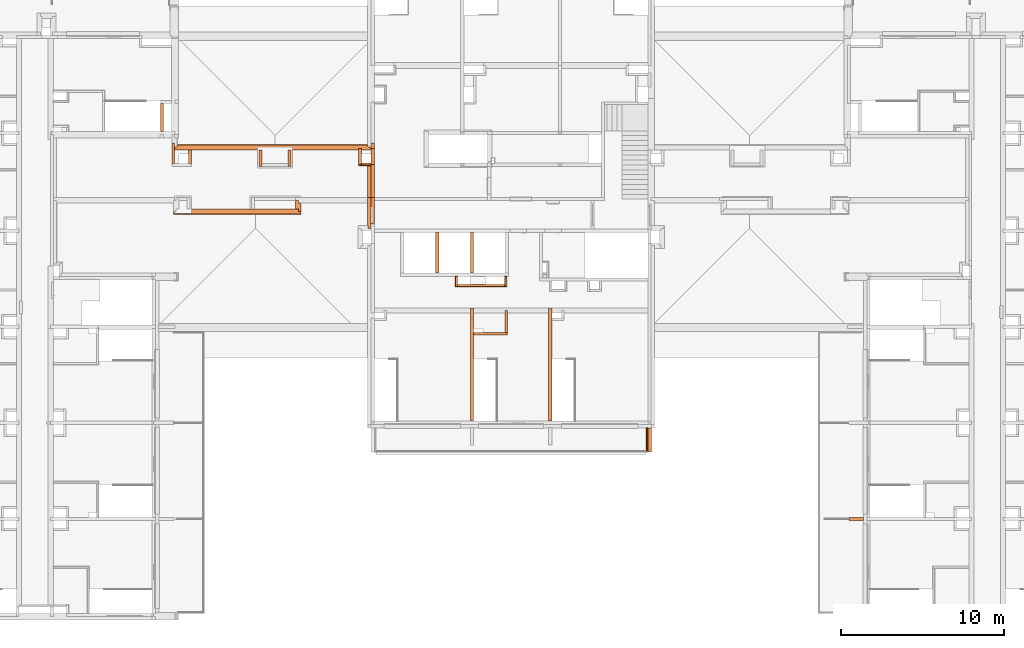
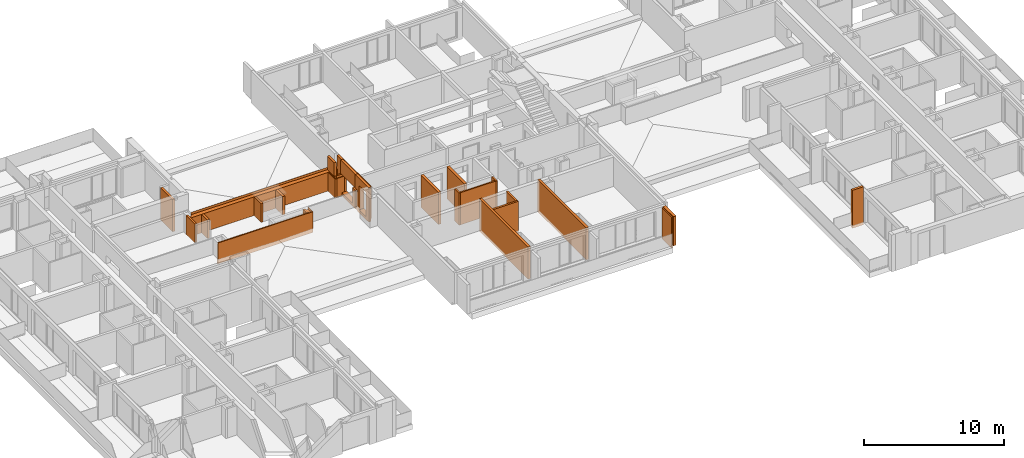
# One storey, part 19 of 30: 25 proxies, 2 openings.
"""IFC2X3 building model written with IfcOpenShell, lengths in millimetres."""

from ifc_helpers import new_model, entity, si_unit, converted_unit, derived_unit, money_unit, direction, frame, origin_with_axes, origin_2d_with_axis, place, context, subcontext, project, spatial, rectangle, extrude, faceted_brep, material, material_list, type_object, element, save


model = new_model("IFC2X3")

# Units and contexts
model_context = context("Model", 3, precision=0.01, world=origin_with_axes(), true_north=direction((0.34421633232, 0.938890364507)))
body_context = subcontext(model_context, "Body", "Model", "MODEL_VIEW")
ifc_project = project(units=[si_unit("LENGTHUNIT", "METRE", prefix="MILLI"), si_unit("AREAUNIT", "SQUARE_METRE"), si_unit("VOLUMEUNIT", "CUBIC_METRE"), converted_unit("PLANEANGLEUNIT", "DEGREE", entity("IfcPlaneAngleMeasure", 0.0174532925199), si_unit("PLANEANGLEUNIT", "RADIAN"), dimensions=[0, 0, 0, 0, 0, 0, 0]), si_unit("SOLIDANGLEUNIT", "STERADIAN"), money_unit("USD"), converted_unit("TIMEUNIT", "Year", entity("IfcTimeMeasure", 31556926.0), si_unit("TIMEUNIT", "SECOND"), dimensions=[0, 0, 1, 0, 0, 0, 0]), si_unit("MASSUNIT", "GRAM", prefix="KILO"), si_unit("THERMODYNAMICTEMPERATUREUNIT", "DEGREE_CELSIUS"), si_unit("LUMINOUSINTENSITYUNIT", "LUMEN"), si_unit("ENERGYUNIT", "JOULE", prefix="MEGA"), derived_unit("THERMALCONDUCTANCEUNIT", [(si_unit("POWERUNIT", "WATT"), 1), (si_unit("LENGTHUNIT", "METRE"), -1), (si_unit("THERMODYNAMICTEMPERATUREUNIT", "KELVIN"), -1)]), derived_unit("SPECIFICHEATCAPACITYUNIT", [(si_unit("ENERGYUNIT", "JOULE"), 1), (si_unit("MASSUNIT", "GRAM", prefix="KILO"), -1), (si_unit("THERMODYNAMICTEMPERATUREUNIT", "KELVIN"), -1)]), derived_unit("MASSDENSITYUNIT", [(si_unit("MASSUNIT", "GRAM", prefix="KILO"), 1), (si_unit("VOLUMEUNIT", "CUBIC_METRE"), -1)])], contexts=[model_context])

# Site, building, storey
site_placement = place(None, origin_with_axes())
site = spatial("IfcSite", under=ifc_project, at=site_placement, Name="USTRONIE MORSKIE", CompositionType="ELEMENT")
building_placement = place(site_placement, origin_with_axes())
building = spatial("IfcBuilding", under=site, at=building_placement, Name="Budynek", CompositionType="ELEMENT")
storey_placement = place(building_placement, frame((0.0, 0.0, 16000.0), z_axis=(0.0, 0.0, 1.0), x_axis=(1.0, 0.0, 0.0)))
storey = spatial("IfcBuildingStorey", under=building, at=storey_placement, Name="ANTRESOLA - KOND. TECHNICZNA", CompositionType="ELEMENT", Elevation=16000.0)

# Proxies
ifc_material_1 = material(Name="Bloczki silikatowe")
building_element_proxy_type_1 = type_object("IfcBuildingElementProxyType", Name="Bloczki silikatowe 120", PredefinedType="NOTDEFINED")
proxy_1_placement = place(storey_placement, frame((384517.920018, 729491.199036, -160.0), z_axis=(0.0, 0.0, 1.0), x_axis=(1.0, 0.0, 0.0)))
element("IfcBuildingElementProxy", 1, at=proxy_1_placement, inside=storey, type_object=building_element_proxy_type_1, material=ifc_material_1, Name="SW-04", context=body_context, shape_type="Brep", body=[
    faceted_brep([(2920.00090117, -120.0, 2800.0), (2920.00090117, 0.0, 2800.0), (0.0, 0.0, 2800.0), (0.0, -120.0, 2800.0), (2920.00090117, -120.0, 0.0), (2920.00090117, 0.0, 0.0), (0.0, 0.0, 0.0), (0.0, -120.0, 0.0)], [[[0, 1, 2, 3]], [[1, 0, 4, 5]], [[1, 5, 6, 2]], [[7, 3, 2, 6]], [[4, 0, 3, 7]], [[5, 4, 7, 6]]]),
])
proxy_2_placement = place(storey_placement, frame((384517.920018, 730091.199036, -160.0), z_axis=(0.0, 0.0, 1.0), x_axis=(0.0, -1.0, 0.0)))
element("IfcBuildingElementProxy", 2, at=proxy_2_placement, inside=storey, type_object=building_element_proxy_type_1, material=ifc_material_1, Name="SW-04", context=body_context, shape_type="Brep", body=[
    faceted_brep([(720.0, -120.0, 2800.0), (720.0, 0.0, 2800.0), (100.0, 0.0, 2800.0), (100.0, -120.0, 2800.0), (720.0, -120.0, 0.0), (720.0, 0.0, 0.0), (100.0, 0.0, 0.0), (100.0, -120.0, 0.0)], [[[0, 1, 2, 3]], [[1, 0, 4, 5]], [[1, 5, 6, 2]], [[7, 3, 2, 6]], [[4, 0, 3, 7]], [[5, 4, 7, 6]]]),
])
proxy_3_placement = place(storey_placement, frame((387437.920919, 729491.199036, -160.0), z_axis=(0.0, 0.0, 1.0), x_axis=(0.0, 1.0, 0.0)))
element("IfcBuildingElementProxy", 3, at=proxy_3_placement, inside=storey, type_object=building_element_proxy_type_1, material=ifc_material_1, Name="SW-04", context=body_context, shape_type="Brep", body=[
    faceted_brep([(500.0, -120.0, 2800.0), (500.0, 0.0, 2800.0), (-120.0, 0.0, 2800.0), (-120.0, -120.0, 2800.0), (500.0, -120.0, 0.0), (500.0, 0.0, 0.0), (-120.0, 0.0, 0.0), (-120.0, -120.0, 0.0)], [[[0, 1, 2, 3]], [[1, 0, 4, 5]], [[1, 5, 6, 2]], [[7, 3, 2, 6]], [[4, 0, 3, 7]], [[5, 4, 7, 6]]]),
])

# Proxy, opening
ifc_material_2 = material(Name="Tynk zewnętrzny")
ifc_material_3 = material(Name="Wełna ELEW")
ifc_material_4 = material(Name="Beton konstrukcyjny B25")
ifc_material_list_1 = material_list([ifc_material_2, ifc_material_3, ifc_material_4])
building_element_proxy_type_2 = type_object("IfcBuildingElementProxyType", Name="20+20 410", PredefinedType="NOTDEFINED")
proxy_4_placement = place(storey_placement, frame((379317.920919, 732811.199494, -160.0), z_axis=(0.0, 0.0, 1.0), x_axis=(0.0, 1.0, 0.0)))
proxy_4 = element("IfcBuildingElementProxy", 4, at=proxy_4_placement, inside=storey, type_object=building_element_proxy_type_2, material=ifc_material_list_1, Name="Œciana-008", context=body_context, shape_type="Brep", body=[
    faceted_brep([(2040.00427375, 310.0, 1620.00000171), (2040.00427375, 300.0, 1620.00000171), (2040.00427375, 300.0, 5.0), (2040.00427375, 310.0, 5.0), (2020.00427375, 300.0, 1620.00000171), (2020.00427375, 310.0, 1620.00000171), (2020.00427375, 300.0, 5.0), (2020.00427375, 310.0, 5.0)], [[[0, 1, 2, 3]], [[4, 1, 0, 5]], [[1, 4, 6, 2]], [[3, 2, 6, 7]], [[5, 0, 3, 7]], [[4, 5, 7, 6]]]),
    faceted_brep([(1690.00427375, 300.0, 1820.00000171), (1690.00427375, 300.0, 1825.00000171), (2040.00427375, 300.0, 1825.00000171), (2040.00427375, 300.0, 3000.0), (300.0, 300.0, 3000.0), (300.0, 300.0, 5.0), (1690.00427365, 300.0, 5.0), (1690.00427375, 310.0, 1820.00000171), (1690.00427375, 310.0, 1825.00000171), (2040.00427375, 310.0, 1825.00000171), (2040.00427375, 310.0, 3000.0), (300.0, 310.0, 3000.0), (300.0, 310.0, 5.0), (1690.00427365, 310.0, 5.0)], [[[0, 1, 2, 3, 4, 5, 6]], [[1, 0, 7, 8]], [[9, 2, 1, 8]], [[2, 9, 10, 3]], [[11, 4, 3, 10]], [[12, 5, 4, 11]], [[13, 6, 5, 12]], [[7, 0, 6, 13]], [[8, 7, 13, 12, 11, 10, 9]]]),
    faceted_brep([(1690.00427375, 99.9999294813, 1825.00000171), (2040.00427375, 99.9999294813, 1825.00000171), (2040.00427375, 100.0, 3000.0), (120.0, 100.0, 3000.0), (120.0, 100.0, 5.0), (1840.0042738, 100.0, 5.0), (1840.00427375, 99.9999294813, 1620.00000171), (1690.00427375, 99.9999294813, 1620.00000171), (2040.00427375, 300.0, 1825.00000171), (1690.00427375, 300.0, 1825.00000171), (2040.00427375, 300.0, 3000.0), (120.0, 300.0, 3000.0), (120.0, 300.0, 5.0), (1840.00427385, 300.0, 5.0), (1840.00427376, 300.0, 1620.00000171), (1690.00427375, 300.0, 1620.00000171)], [[[0, 1, 2, 3, 4, 5, 6, 7]], [[8, 1, 0, 9]], [[1, 8, 10, 2]], [[11, 3, 2, 10]], [[12, 4, 3, 11]], [[13, 5, 4, 12]], [[14, 6, 5, 13]], [[7, 6, 14, 15]], [[9, 0, 7, 15]], [[9, 15, 14, 13, 12, 11, 10, 8]]]),
    faceted_brep([(2040.00427375, 300.0, 1620.00000171), (2040.00427375, 99.9999294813, 1620.00000171), (2040.00427375, 100.0, 5.0), (2040.00427375, 300.0, 5.0), (2020.00427375, 99.9999294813, 1620.00000171), (2020.00427375, 300.0, 1620.00000171), (2020.00427375, 100.0, 5.0), (2020.00427375, 300.0, 5.0)], [[[0, 1, 2, 3]], [[4, 1, 0, 5]], [[1, 4, 6, 2]], [[3, 2, 6, 7]], [[5, 0, 3, 7]], [[4, 5, 7, 6]]]),
    faceted_brep([(2040.00427375, 100.0, 2800.0), (2040.00427375, -100.0, 2800.0), (2040.00427375, -100.0, 0.0), (2040.00427375, 100.0, 0.0), (410.0, -100.0, 2800.0), (410.0, 100.0, 2800.0), (410.0, -100.0, 0.0), (410.0, 100.0, 0.0)], [[[0, 1, 2, 3]], [[4, 1, 0, 5]], [[1, 4, 6, 2]], [[2, 6, 7, 3]], [[5, 0, 3, 7]], [[4, 5, 7, 6]]]),
])
opening_1_placement = place(proxy_4_placement, frame((979.999542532, 0.0, 250.0), z_axis=(0.0, 0.0, 1.0), x_axis=(1.0, 0.0, 0.0)))
element("IfcOpeningElement", 5, at=opening_1_placement, cuts=proxy_4, Name="D8", context=body_context, shape_type="SweptSolid", body=[
    extrude(rectangle(XDim=1020.0, YDim=2120.0, at=origin_2d_with_axis()), frame((0.0, 100.0, 1060.0), z_axis=(0.0, -1.0, 0.0), x_axis=(-1.0, 0.0, 0.0)), (0.0, 0.0, -1.0), 620.0),
    extrude(rectangle(XDim=1020.0, YDim=2120.0, at=origin_2d_with_axis()), frame((0.0, 100.0, 1060.0), z_axis=(0.0, 1.0, 0.0), x_axis=(-1.0, 0.0, 0.0)), (0.0, 0.0, -1.0), 610.0),
])

ifc_material_list_2 = material_list([ifc_material_4, ifc_material_3, ifc_material_2])
proxy_5_placement = place(storey_placement, frame((379317.920919, 736951.199036, -160.0), z_axis=(0.0, 0.0, 1.0), x_axis=(0.0, -1.0, 0.0)))
proxy_5 = element("IfcBuildingElementProxy", 6, at=proxy_5_placement, inside=storey, type_object=building_element_proxy_type_2, material=ifc_material_list_2, Name="Œciana-006", context=body_context, shape_type="Brep", body=[
    faceted_brep([(0.0, -100.0, 2800.0), (0.0, 100.0, 2800.0), (0.0, 100.0, 0.0), (0.0, -100.0, 0.0), (2099.99526878, 100.0, 2800.0), (2099.99526878, -100.0, 2800.0), (2099.99526878, 100.0, 0.0), (2099.99526878, -100.0, 0.0)], [[[0, 1, 2, 3]], [[4, 1, 0, 5]], [[1, 4, 6, 2]], [[3, 2, 6, 7]], [[5, 0, 3, 7]], [[4, 5, 7, 6]]]),
    faceted_brep([(180.0, -300.0, 1620.00000171), (180.0, -99.9999294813, 1620.00000171), (180.0, -100.0, 5.0), (180.0, -300.0, 5.0), (2099.99526878, -99.9999294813, 1620.00000171), (2099.99526878, -300.0, 1620.00000171), (2099.99526878, -100.0, 5.0), (2099.99526878, -300.0, 5.0)], [[[0, 1, 2, 3]], [[4, 1, 0, 5]], [[1, 4, 6, 2]], [[3, 2, 6, 7]], [[5, 0, 3, 7]], [[4, 5, 7, 6]]]),
    faceted_brep([(120.000112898, -99.9999294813, 1825.00000171), (120.000112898, -99.9999294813, 1820.00000171), (0.0, -100.0, 1820.00000171), (0.0, -100.0, 3000.00000122), (2099.99526878, -100.0, 3000.00000122), (2099.99526878, -99.9999294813, 1825.00000171), (120.000112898, -300.0, 1825.00000171), (120.000112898, -300.0, 1820.00000171), (0.0, -300.0, 1820.00000171), (0.0, -300.0, 3000.00000122), (2099.99526878, -300.0, 3000.00000122), (2099.99526878, -300.0, 1825.00000171)], [[[0, 1, 2, 3, 4, 5]], [[1, 0, 6, 7]], [[1, 7, 8, 2]], [[3, 2, 8, 9]], [[3, 9, 10, 4]], [[11, 5, 4, 10]], [[0, 5, 11, 6]], [[6, 11, 10, 9, 8, 7]]]),
    faceted_brep([(180.0, -310.0, 1620.00000171), (180.0, -300.0, 1620.00000171), (180.0, -300.0, 5.0), (180.0, -310.0, 5.0), (2099.99526878, -300.0, 1620.00000171), (2099.99526878, -310.0, 1620.00000171), (2099.99526878, -300.0, 5.0), (2099.99526878, -310.0, 5.0)], [[[0, 1, 2, 3]], [[4, 1, 0, 5]], [[1, 4, 6, 2]], [[3, 2, 6, 7]], [[5, 0, 3, 7]], [[4, 5, 7, 6]]]),
    faceted_brep([(120.000112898, -300.0, 1825.00000171), (120.000112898, -300.0, 1820.00000171), (0.0, -300.0, 1820.00000171), (0.0, -300.0, 3000.00000122), (2099.99526878, -300.0, 3000.00000122), (2099.99526878, -300.0, 1825.00000171), (120.000112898, -310.0, 1825.00000171), (120.000112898, -310.0, 1820.00000171), (0.0, -310.0, 1820.00000171), (0.0, -310.0, 3000.00000122), (2099.99526878, -310.0, 3000.00000122), (2099.99526878, -310.0, 1825.00000171)], [[[0, 1, 2, 3, 4, 5]], [[1, 0, 6, 7]], [[1, 7, 8, 2]], [[3, 2, 8, 9]], [[3, 9, 10, 4]], [[11, 5, 4, 10]], [[0, 5, 11, 6]], [[6, 11, 10, 9, 8, 7]]]),
])
opening_2_placement = place(proxy_5_placement, frame((930.0, 0.0, 250.0), z_axis=(0.0, 0.0, 1.0), x_axis=(1.0, 0.0, 0.0)))
element("IfcOpeningElement", 7, at=opening_2_placement, cuts=proxy_5, context=body_context, shape_type="SweptSolid", body=[
    extrude(rectangle(XDim=1500.0, YDim=1370.00000171, at=origin_2d_with_axis()), frame((0.0, -100.0, 685.000000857), z_axis=(0.0, 1.0, 0.0), x_axis=(1.0, 0.0, 0.0)), (0.0, 0.0, -1.0), 620.0),
    extrude(rectangle(XDim=1500.0, YDim=1370.00000171, at=origin_2d_with_axis()), frame((0.0, -100.0, 685.000000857), z_axis=(0.0, -1.0, 0.0), x_axis=(1.0, 0.0, 0.0)), (0.0, 0.0, -1.0), 620.0),
])

# Proxies
building_element_proxy_type_3 = type_object("IfcBuildingElementProxyType", Name="Bloczki silikatowe 180", PredefinedType="NOTDEFINED")
proxy_6_placement = place(storey_placement, frame((378617.937739, 737841.199937, -159.999998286), z_axis=(0.0, 0.0, 1.0), x_axis=(0.0, -1.0, 0.0)))
element("IfcBuildingElementProxy", 8, at=proxy_6_placement, inside=storey, type_object=building_element_proxy_type_3, material=ifc_material_1, Name="Œciana-006", context=body_context, shape_type="Brep", body=[
    faceted_brep([(90.0, 0.0, 1620.0), (219.997747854, 0.0, 1620.0), (219.997747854, 0.0, 1820.0), (90.0, 0.0, 1820.0), (0.0, 0.0, 1819.99998851), (0.0, 0.0, 2999.99999829), (980.00090117, 0.0, 2999.99999829), (980.00090117, 0.0, 1820.0), (1010.00101407, 0.0, 1820.0), (1010.00101407, 0.0, 1620.0), (1070.00090117, 0.0, 1620.0), (1070.00090117, 0.0, 0.0), (90.0, 0.0, -1.71372960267e-06), (1010.00101407, -120.000077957, 1620.0), (219.997747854, -120.000077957, 1620.0), (90.0, -180.0, 1620.0), (1010.00101407, -180.0, 1620.0), (1070.00090117, -180.0, 1620.0), (219.997747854, -120.000077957, 1820.0), (980.00090117, -180.0, 1820.0), (90.0, -180.0, 1820.0), (980.00090117, -120.000077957, 1820.0), (0.0, -180.0, 1819.99998851), (0.0, -180.0, 2999.99999829), (980.00090117, -180.0, 2999.99999829), (1010.00101407, -120.000077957, 1820.0), (1070.00090117, -180.0, 0.0), (90.0, -180.0, -1.71372960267e-06)], [[[0, 1, 2, 3, 4, 5, 6, 7, 8, 9, 10, 11, 12]], [[13, 14, 1, 0, 15, 16, 17, 10, 9]], [[18, 2, 1, 14]], [[19, 20, 3, 2, 18, 21]], [[4, 3, 20, 22]], [[23, 5, 4, 22]], [[6, 5, 23, 24]], [[24, 19, 21, 7, 6]], [[7, 21, 25, 8]], [[13, 9, 8, 25]], [[11, 10, 17, 26]], [[11, 26, 27, 12]], [[27, 15, 0, 12]], [[21, 18, 14, 13, 25]], [[16, 15, 27, 26, 17]], [[22, 20, 19, 24, 23]]]),
])
proxy_7_placement = place(storey_placement, frame((366377.920919, 738801.199036, -160.0), z_axis=(0.0, 0.0, 1.0), x_axis=(0.0, 1.0, 0.0)))
element("IfcBuildingElementProxy", 9, at=proxy_7_placement, inside=storey, type_object=building_element_proxy_type_3, material=ifc_material_1, Name="SW-02", context=body_context, shape_type="Brep", body=[
    faceted_brep([(1819.98043997, -90.0, 2800.0), (1819.98043997, 90.0, 2800.0), (100.0, 90.0, 2800.0), (100.0, -90.0, 2800.0), (1819.98043997, -90.0, 0.0), (1819.98043997, 90.0, 0.0), (100.0, 90.0, 0.0), (100.0, -90.0, 0.0)], [[[0, 1, 2, 3]], [[1, 0, 4, 5]], [[1, 5, 6, 2]], [[7, 3, 2, 6]], [[4, 0, 3, 7]], [[5, 4, 7, 6]]]),
])
proxy_8_placement = place(storey_placement, frame((368107.904099, 737841.199937, -160.0), z_axis=(0.0, 0.0, 1.0), x_axis=(0.0, -1.0, 0.0)))
element("IfcBuildingElementProxy", 10, at=proxy_8_placement, inside=storey, type_object=building_element_proxy_type_3, material=ifc_material_1, Name="SW-02", context=body_context, shape_type="Brep", body=[
    faceted_brep([(90.0, -90.0, 0.0), (90.0, -90.0, 1620.00000171), (90.0, 90.0, 1620.00000171), (90.0, 90.0, 0.0), (910.00090117, -90.0, 1620.00000171), (910.00090117, -90.0, 0.0), (910.00090117, 90.0, 1620.00000171), (910.00090117, 90.0, 0.0)], [[[0, 1, 2, 3]], [[4, 1, 0, 5]], [[6, 2, 1, 4]], [[3, 2, 6, 7]], [[3, 7, 5, 0]], [[7, 6, 4, 5]]]),
])
proxy_9_placement = place(storey_placement, frame((378617.937739, 736861.199036, -359.999998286), z_axis=(0.0, 0.0, 1.0), x_axis=(1.0, 0.0, 0.0)))
element("IfcBuildingElementProxy", 11, at=proxy_9_placement, inside=storey, type_object=building_element_proxy_type_3, material=ifc_material_1, Name="SW-02", context=body_context, shape_type="Brep", body=[
    faceted_brep([(0.0, 90.0, 2019.99999843), (0.0, -30.0001128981, 2020.0), (599.983250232, -30.0001128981, 2020.0), (599.983179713, 89.9999999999, 2020.0), (0.0, -90.0, 1820.0), (0.0, -30.0001128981, 1820.0), (0.0, 90.0, 199.999999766), (0.0, 90.0, 0.0), (0.00015960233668, 69.9984160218, -1.71373137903e-06), (0.00015960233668, 69.9984160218, 199.999998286), (0.0, -90.0, 199.999998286), (599.983250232, -30.0001128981, 1820.0), (599.983250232, -90.0, 1820.0), (599.983179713, -90.0000000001, 199.999998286), (599.983179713, 69.9984160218, 199.999998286), (599.983179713, 69.9984160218, -1.71373137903e-06), (599.983179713, 90.0, 0.0), (599.983179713, 89.9999999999, 199.999998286)], [[[0, 1, 2, 3]], [[4, 5, 1, 0, 6, 7, 8, 9, 10]], [[5, 11, 2, 1]], [[2, 11, 12, 13, 14, 15, 16, 17, 3]], [[6, 0, 3, 17, 16, 7]], [[4, 12, 11, 5]], [[16, 15, 8, 7]], [[8, 15, 14, 9]], [[9, 14, 13, 10]], [[13, 12, 4, 10]]]),
])
proxy_10_placement = place(storey_placement, frame((372427.920919, 736841.199036, -359.999998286), z_axis=(0.0, 0.0, 1.0), x_axis=(0.0, 1.0, 0.0)))
element("IfcBuildingElementProxy", 12, at=proxy_10_placement, inside=storey, type_object=building_element_proxy_type_3, material=ifc_material_1, Name="SW-02", context=body_context, shape_type="Brep", body=[
    faceted_brep([(910.000916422, 90.0, 199.999998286), (910.000902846, 90.0, 1820.0), (910.000902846, -90.0, 1820.0), (910.000916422, -90.0, 199.999998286), (-90.0, 90.0, 199.999998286), (-90.0, 90.0, 1820.0), (90.0, 90.0, 199.999998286), (-70.0000000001, 90.0, 199.999998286), (-90.0, -90.0, 1820.0), (-90.0, -90.0, 199.999998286), (-70.0000000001, -90.0, 199.999998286), (90.0, -90.0, 199.999998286)], [[[0, 1, 2, 3]], [[4, 5, 1, 0, 6, 7]], [[5, 8, 2, 1]], [[3, 2, 8, 9, 10, 11]], [[0, 3, 11, 6]], [[9, 8, 5, 4]], [[11, 10, 7, 6]], [[4, 7, 10, 9]]]),
])
proxy_11_placement = place(storey_placement, frame((367067.920919, 737841.199937, -360.0), z_axis=(0.0, 0.0, 1.0), x_axis=(0.0, -1.0, 0.0)))
element("IfcBuildingElementProxy", 13, at=proxy_11_placement, inside=storey, type_object=building_element_proxy_type_3, material=ifc_material_1, Name="SW-02", context=body_context, shape_type="Brep", body=[
    faceted_brep([(-350.0, -90.0, 200.0), (-350.0, -90.0, 1820.00000171), (-350.0, 90.0, 1820.00000171), (-350.0, 90.0, 200.0), (910.00090117, -90.0, 200.0), (910.00090117, -90.0, 1820.00000171), (0.0, -90.0, 200.0), (910.00090117, 90.0, 1820.00000171), (910.00090117, 90.0, 200.0), (0.0, 90.0, 200.0)], [[[0, 1, 2, 3]], [[4, 5, 1, 0, 6]], [[5, 7, 2, 1]], [[3, 2, 7, 8, 9]], [[3, 9, 6, 0]], [[8, 7, 5, 4]], [[4, 6, 9, 8]]]),
])
proxy_12_placement = place(storey_placement, frame((374207.920919, 737841.199937, -359.999998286), z_axis=(0.0, 0.0, 1.0), x_axis=(0.0, -1.0, 0.0)))
element("IfcBuildingElementProxy", 14, at=proxy_12_placement, inside=storey, type_object=building_element_proxy_type_3, material=ifc_material_1, Name="SW-02", context=body_context, shape_type="Brep", body=[
    faceted_brep([(89.9999847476, -90.0, 199.999998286), (89.9999983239, -90.0, 1820.0), (89.9999983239, 90.0, 1820.0), (89.9999847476, 90.0, 199.999998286), (1090.00090117, -90.0, 199.999998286), (1090.00090117, -90.0, 1820.0), (910.00090117, -90.0, 199.999998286), (1070.00090117, -90.0, 199.999998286), (1090.00090117, 90.0, 1820.0), (1090.00090117, 90.0, 199.999998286), (1070.00090117, 90.0, 199.999998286), (910.00090117, 90.0, 199.999998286)], [[[0, 1, 2, 3]], [[4, 5, 1, 0, 6, 7]], [[5, 8, 2, 1]], [[3, 2, 8, 9, 10, 11]], [[0, 3, 11, 6]], [[9, 8, 5, 4]], [[11, 10, 7, 6]], [[4, 7, 10, 9]]]),
])
building_element_proxy_type_4 = type_object("IfcBuildingElementProxyType", Name="Bloczki silikatowe 150", PredefinedType="NOTDEFINED")
proxy_13_placement = place(storey_placement, frame((387512.920919, 727826.199036, -160.0), z_axis=(0.0, 0.0, 1.0), x_axis=(0.0, -1.0, 0.0)))
element("IfcBuildingElementProxy", 15, at=proxy_13_placement, inside=storey, type_object=building_element_proxy_type_4, material=ifc_material_1, Name="SW-03", context=body_context, shape_type="Brep", body=[
    faceted_brep([(1290.0, 75.0, 0.0), (1290.0, -75.0, 0.0), (-75.0, -75.0, 0.0), (-75.0, 75.0, 0.0), (1290.0, 75.0, 2800.0), (1290.0, -75.0, 2800.0), (-75.0, -75.0, 2800.0), (-75.0, 75.0, 2800.0)], [[[0, 1, 2, 3]], [[1, 0, 4, 5]], [[1, 5, 6, 2]], [[7, 3, 2, 6]], [[4, 0, 3, 7]], [[5, 4, 7, 6]]]),
])
proxy_14_placement = place(storey_placement, frame((385417.917953, 726461.199036, -160.0), z_axis=(0.0, 0.0, 1.0), x_axis=(1.0, 0.0, 0.0)))
element("IfcBuildingElementProxy", 16, at=proxy_14_placement, inside=storey, type_object=building_element_proxy_type_4, material=ifc_material_1, Name="SW-03", context=body_context, shape_type="Brep", body=[
    faceted_brep([(2170.00296568, -75.0, 2800.0), (2170.00296568, 75.0, 2800.0), (100.001739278, 75.0, 2800.0), (100.00245405, -75.0, 2800.0), (2170.00296568, -75.0, 0.0), (2170.00296568, 75.0, 0.0), (100.001739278, 75.0, 0.0), (100.00245405, -75.0, 0.0)], [[[0, 1, 2, 3]], [[1, 0, 4, 5]], [[1, 5, 6, 2]], [[7, 3, 2, 6]], [[4, 0, 3, 7]], [[5, 4, 7, 6]]]),
])
building_element_proxy_type_5 = type_object("IfcBuildingElementProxyType", Name="Beton konstrukcyjny B25 200", PredefinedType="NOTDEFINED")
for number, where, z_axis, x_axis, name in (
    (17, (385417.920919, 730091.199036, -160.0), (0.0, 0.0, 1.0), (0.0, 1.0, 0.0), "SW-01"),
    (18, (383277.920919, 730091.199036, -160.0), (0.0, 0.0, 1.0), (0.0, 1.0, 0.0), "SW-01"),
):
    element("IfcBuildingElementProxy", number, at=place(storey_placement, frame(where, z_axis=z_axis, x_axis=x_axis)), inside=storey, type_object=building_element_proxy_type_5, material=ifc_material_4, Name=name, context=body_context, shape_type="Brep", body=[
        faceted_brep([(2610.0, 100.0, 0.0), (2610.0, -100.0, 0.0), (100.0, -100.0, 0.0), (100.0, 100.0, 0.0), (2610.0, 100.0, 2800.0), (2610.0, -100.0, 2800.0), (100.0, -100.0, 2800.0), (100.0, 100.0, 2800.0)], [[[0, 1, 2, 3]], [[1, 0, 4, 5]], [[1, 5, 6, 2]], [[7, 3, 2, 6]], [[4, 0, 3, 7]], [[5, 4, 7, 6]]]),
    ])
proxy_15_placement = place(storey_placement, frame((390217.906071, 721001.199036, -160.0), z_axis=(0.0, 0.0, 1.0), x_axis=(4.76514275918e-06, 0.999999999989, 0.0)))
element("IfcBuildingElementProxy", 19, at=proxy_15_placement, inside=storey, type_object=building_element_proxy_type_5, material=ifc_material_4, Name="SW-01", context=body_context, shape_type="Brep", body=[
    faceted_brep([(99.9995234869, 100.0, 2800.0), (99.9995234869, 100.0, 0.0), (100.000476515, -100.0, 0.0), (100.000476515, -100.0, 2800.0), (7049.99952357, 100.0, 0.0), (7049.99952357, 100.0, 2800.0), (7050.00047659, -100.0, 0.0), (7050.00047659, -100.0, 2800.0)], [[[0, 1, 2, 3]], [[4, 1, 0, 5]], [[6, 2, 1, 4]], [[3, 2, 6, 7]], [[5, 0, 3, 7]], [[5, 7, 6, 4]]]),
])
proxy_16_placement = place(storey_placement, frame((379317.920919, 737841.199937, -159.999998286), z_axis=(0.0, 0.0, 1.0), x_axis=(0.0, -1.0, 0.0)))
element("IfcBuildingElementProxy", 20, at=proxy_16_placement, inside=storey, type_object=building_element_proxy_type_5, material=ifc_material_4, Name="SW-01", context=body_context, shape_type="Brep", body=[
    faceted_brep([(0.0, -100.0, 1819.99998851), (0.0, -100.0, 2799.99999829), (0.0, 100.0, 2799.99999829), (0.0, 100.0, 1819.99998851), (980.00090117, -100.0, 1820.0), (980.00090117, -100.0, 2799.99999829), (-350.0, -100.0, 1819.99998851), (-350.0, -100.0, 0.0), (890.00090117, -100.0, -1.7137367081e-06), (890.00090117, -100.0, 1820.0), (980.00090117, 100.0, 2799.99999829), (980.00090117, 100.0, 1820.0), (890.00090117, 100.0, 1820.0), (890.00090117, 100.0, -1.7137367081e-06), (-350.0, 100.0, 0.0), (-350.0, 100.0, 1819.99998851)], [[[0, 1, 2, 3]], [[4, 5, 1, 0, 6, 7, 8, 9]], [[5, 10, 2, 1]], [[3, 2, 10, 11, 12, 13, 14, 15]], [[15, 6, 0, 3]], [[11, 10, 5, 4]], [[15, 14, 7, 6]], [[7, 14, 13, 8]], [[9, 8, 13, 12]], [[4, 9, 12, 11]]]),
])
proxy_17_placement = place(storey_placement, frame((409457.920919, 715101.199036, -180.0), z_axis=(0.0, 0.0, 1.0), x_axis=(-1.0, 0.0, 0.0)))
element("IfcBuildingElementProxy", 21, at=proxy_17_placement, inside=storey, type_object=building_element_proxy_type_5, material=ifc_material_4, Name="SW-01", context=body_context, shape_type="Brep", body=[
    faceted_brep([(0.0, -100.0, 3330.0), (0.0, 100.0, 3330.0), (0.0, 100.000032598, 20.0), (0.0, -99.9999674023, 20.0), (890.036391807, 100.0, 3330.0), (890.036391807, -100.0, 3330.0), (890.036391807, 100.000032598, 20.0), (890.036391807, -99.9999674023, 20.0)], [[[0, 1, 2, 3]], [[4, 1, 0, 5]], [[1, 4, 6, 2]], [[2, 6, 7, 3]], [[5, 0, 3, 7]], [[4, 5, 7, 6]]]),
])
proxy_18_placement = place(storey_placement, frame((385417.946068, 721001.198989, -160.0), z_axis=(0.0, 0.0, 1.0), x_axis=(-4.76514275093e-06, 0.999999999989, 0.0)))
element("IfcBuildingElementProxy", 22, at=proxy_18_placement, inside=storey, type_object=building_element_proxy_type_5, material=ifc_material_4, Name="SW-01", context=body_context, shape_type="Brep", body=[
    faceted_brep([(100.000524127, 100.0, 2800.0), (100.000524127, 100.0, 0.0), (99.9995710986, -100.0, 0.0), (99.9995710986, -100.0, 2800.0), (7050.00052421, 100.0, 0.0), (7050.00052421, 100.0, 2800.0), (7049.99957118, -100.0, 0.0), (7049.99957118, -100.0, 2800.0)], [[[0, 1, 2, 3]], [[4, 1, 0, 5]], [[6, 2, 1, 4]], [[3, 2, 6, 7]], [[5, 0, 3, 7]], [[5, 7, 6, 4]]]),
])
ifc_material_5 = material(Name="Laminat")
building_element_proxy_type_6 = type_object("IfcBuildingElementProxyType", Name="Laminat 80", PredefinedType="NOTDEFINED")
proxy_19_placement = place(storey_placement, frame((396167.920919, 720691.199036, -160.0), z_axis=(0.0, 0.0, 1.0), x_axis=(0.0, -1.0, 0.0)))
element("IfcBuildingElementProxy", 23, at=proxy_19_placement, inside=storey, type_object=building_element_proxy_type_6, material=ifc_material_5, Name="Œciana-008", context=body_context, shape_type="Brep", body=[
    faceted_brep([(0.0, 40.0, 2700.0), (0.0, -40.0, 2700.0), (1390.0, -40.0, 2700.0), (1390.0, 40.0, 2700.0), (0.0, 40.0, 0.0), (0.0, -40.0, 0.0), (1390.0, -40.0, 0.0), (1390.0, 40.0, 0.0)], [[[0, 1, 2, 3]], [[4, 5, 1, 0]], [[1, 5, 6, 2]], [[7, 3, 2, 6]], [[4, 0, 3, 7]], [[5, 4, 7, 6]]]),
])
ifc_material_list_3 = material_list([ifc_material_2, ifc_material_1, ifc_material_2])
building_element_proxy_type_7 = type_object("IfcBuildingElementProxyType", Name="BALKON bok 04 220", PredefinedType="NOTDEFINED")
proxy_20_placement = place(storey_placement, frame((396317.920919, 720691.199036, 79.9999979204), z_axis=(0.0, 0.0, 1.0), x_axis=(0.0, -1.0, 0.0)))
element("IfcBuildingElementProxy", 24, at=proxy_20_placement, inside=storey, type_object=building_element_proxy_type_7, material=ifc_material_list_3, Name="Œciana-008", context=body_context, shape_type="Brep", body=[
    faceted_brep([(0.0, 100.0, 2540.00000208), (1490.0, 100.0, 2540.00000208), (1490.0, 110.0, 2540.00000208), (0.0, 110.0, 2540.00000208), (0.0, 100.0, 0.0), (1490.0, 100.0, 0.0), (1490.0, 110.0, 0.0), (0.0, 110.0, 0.0)], [[[0, 1, 2, 3]], [[4, 5, 1, 0]], [[2, 1, 5, 6]], [[3, 2, 6, 7]], [[4, 0, 3, 7]], [[7, 6, 5, 4]]]),
    faceted_brep([(0.0, -100.0, 2540.00000208), (1490.0, -100.0, 2540.00000208), (1490.0, 100.0, 2540.00000208), (0.0, 100.0, 2540.00000208), (0.0, -100.0, 0.0), (1490.0, -100.0, 0.0), (1490.0, 100.0, 0.0), (0.0, 100.0, 0.0)], [[[0, 1, 2, 3]], [[4, 5, 1, 0]], [[2, 1, 5, 6]], [[3, 2, 6, 7]], [[4, 0, 3, 7]], [[7, 6, 5, 4]]]),
    faceted_brep([(0.0, -110.0, 2540.00000208), (1490.0, -110.0, 2540.00000208), (1490.0, -100.0, 2540.00000208), (0.0, -100.0, 2540.00000208), (0.0, -110.0, 0.0), (1490.0, -110.0, 0.0), (1490.0, -100.0, 0.0), (0.0, -100.0, 0.0)], [[[0, 1, 2, 3]], [[4, 5, 1, 0]], [[2, 1, 5, 6]], [[3, 2, 6, 7]], [[4, 0, 3, 7]], [[7, 6, 5, 4]]]),
])
ifc_material_list_4 = material_list([ifc_material_2, ifc_material_3, ifc_material_1])
building_element_proxy_type_8 = type_object("IfcBuildingElementProxyType", Name="18+15 AKU 340", PredefinedType="NOTDEFINED")
proxy_21_placement = place(storey_placement, frame((374677.920919, 734061.201884, -160.0), z_axis=(0.0, 0.0, 1.0), x_axis=(-1.0, 0.0, 0.0)))
element("IfcBuildingElementProxy", 25, at=proxy_21_placement, inside=storey, type_object=building_element_proxy_type_8, material=ifc_material_list_4, Name="Œciana-006", context=body_context, shape_type="Brep", body=[
    faceted_brep([(-250.0, 250.0, 5.0), (-250.0, 240.0, 5.0), (-250.0, 240.0, 1819.99999023), (-250.0, 250.0, 1819.99999023), (460.000189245, 240.0, 5.0), (460.000189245, 250.0, 5.0), (2810.0, 240.0, 5.0), (6580.03065015, 240.0, 5.0), (7600.0131762, 240.0, 5.0), (7600.0131762, 240.0, 1819.99999023), (7600.01307514, 250.0, 1819.99999023), (7600.01307514, 250.0, 5.0), (6580.03054909, 250.0, 5.0), (2810.0, 250.0, 5.0)], [[[0, 1, 2, 3]], [[4, 1, 0, 5]], [[1, 4, 6, 7, 8, 9, 2]], [[9, 10, 3, 2]], [[5, 0, 3, 10, 11, 12, 13]], [[4, 5, 13, 6]], [[7, 6, 13, 12]], [[7, 12, 11, 8]], [[8, 11, 10, 9]]]),
    faceted_brep([(-240.0, 90.0, 1620.00000171), (-240.0, 90.0, 5.0), (7590.01469204, 90.0, 5.0), (7590.02004804, 90.0, 1620.00000171), (6480.03333112, 90.0, 800.000001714), (6480.03333112, 90.0, 920.000001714), (7540.01752162, 90.0, 920.000001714), (7540.01752162, 90.0, 800.000001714), (-240.0, 240.0, 1620.00000171), (-240.0, 240.0, 5.0), (7590.01317619, 240.0, 5.0), (7590.02004804, 240.0, 1620.00000171), (6480.03273666, 190.001264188, 800.000001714), (6480.03273666, 190.001264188, 920.000001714), (7540.01692717, 190.001264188, 920.000001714), (7540.01692717, 190.001264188, 800.000001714)], [[[0, 1, 2, 3], [4, 5, 6, 7]], [[0, 8, 9, 1]], [[1, 9, 10, 2]], [[10, 11, 3, 2]], [[8, 0, 3, 11]], [[4, 12, 13, 5]], [[5, 13, 14, 6]], [[6, 14, 15, 7]], [[7, 15, 12, 4]], [[8, 11, 10, 9]], [[12, 15, 14, 13]]]),
    faceted_brep([(-90.0, -90.0, 1620.00000171), (-90.0, -90.0, 0.0), (7440.01651105, -90.0, 0.0), (7440.01651105, -90.0, 800.000001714), (6480.03440113, -90.0, 800.000001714), (6480.03440113, -90.0, 920.000001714), (7440.01651105, -90.0, 920.000001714), (7440.01651105, -90.0, 1620.00000171), (-90.0, 90.0, 1620.00000171), (-90.0, 90.0, 0.0), (7440.01469203, 90.0, 0.0), (7440.01469203, 90.0, 800.000001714), (6480.03333112, 90.0, 800.000001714), (6480.03333112, 90.0, 920.000001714), (7440.01469203, 90.0, 920.000001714), (7440.01469203, 90.0, 1620.00000171)], [[[0, 1, 2, 3, 4, 5, 6, 7]], [[0, 8, 9, 1]], [[10, 2, 1, 9]], [[11, 3, 2, 10]], [[4, 3, 11, 12]], [[5, 4, 12, 13]], [[6, 5, 13, 14]], [[15, 7, 6, 14]], [[8, 0, 7, 15]], [[8, 15, 14, 13, 12, 11, 10, 9]]]),
])
proxy_22_placement = place(storey_placement, frame((367067.920919, 737841.199937, -160.0), z_axis=(0.0, 0.0, 1.0), x_axis=(1.0, 0.0, 0.0)))
element("IfcBuildingElementProxy", 26, at=proxy_22_placement, inside=storey, type_object=building_element_proxy_type_8, material=ifc_material_list_4, Name="Œciana-006", context=body_context, shape_type="Brep", body=[
    faceted_brep([(11940.0, 240.0, 5.0), (11940.0, 250.0, 5.0), (11940.0, 250.0, 1819.99999023), (11940.0, 240.0, 1819.99999023), (250.0, 240.0, 5.0), (250.0, 250.0, 5.0), (250.0, 250.0, 1819.99999023), (250.0, 240.0, 1819.99999023)], [[[0, 1, 2, 3]], [[1, 0, 4, 5]], [[1, 5, 6, 2]], [[7, 3, 2, 6]], [[0, 3, 7, 4]], [[5, 4, 7, 6]]]),
    faceted_brep([(11950.0, 240.0, 1620.00000171), (11950.0, 240.0, 5.0), (240.0, 240.0, 5.0), (240.0, 240.0, 1620.00000171), (11950.0, 90.0, 1620.00000171), (11950.0, 90.0, 5.0), (240.0, 90.0, 5.0), (240.0, 90.0, 1620.00000171)], [[[0, 1, 2, 3]], [[0, 4, 5, 1]], [[1, 5, 6, 2]], [[7, 3, 2, 6]], [[7, 4, 0, 3]], [[7, 6, 5, 4]]]),
    faceted_brep([(12150.0000705, 90.0, 1620.00000171), (12150.0, 90.0, 0.0), (90.0, 90.0, 0.0), (90.0, 90.0, 1620.00000171), (12150.0000705, -90.0, 1620.00000171), (12150.0, -90.0, 0.0), (90.0, -90.0, 0.0), (90.0, -90.0, 1620.00000171)], [[[0, 1, 2, 3]], [[0, 4, 5, 1]], [[2, 1, 5, 6]], [[7, 3, 2, 6]], [[7, 4, 0, 3]], [[7, 6, 5, 4]]]),
])
ifc_material_list_5 = material_list([ifc_material_1, ifc_material_3, ifc_material_2])
proxy_23_placement = place(storey_placement, frame((374677.920919, 734061.201884, -160.0), z_axis=(0.0, 0.0, 1.0), x_axis=(0.0, 1.0, 0.0)))
element("IfcBuildingElementProxy", 27, at=proxy_23_placement, inside=storey, type_object=building_element_proxy_type_8, material=ifc_material_list_5, Name="Œciana-006", context=body_context, shape_type="Brep", body=[
    faceted_brep([(590.001883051, -90.0, 1620.00000171), (590.001883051, -90.0, 0.0), (590.001883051, 90.0, 0.0), (590.001883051, 90.0, 1620.00000171), (90.0, -90.0, 1620.00000171), (90.0, -90.0, 0.0), (90.0, 90.0, 0.0), (90.0, 90.0, 1620.00000171), (430.001883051, 90.0, 1620.00000171)], [[[0, 1, 2, 3]], [[0, 4, 5, 1]], [[6, 2, 1, 5]], [[7, 8, 3, 2, 6]], [[8, 7, 4, 0, 3]], [[4, 7, 6, 5]]]),
    faceted_brep([(440.001883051, -90.0, 1620.00000171), (440.001883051, -240.0, 1620.00000171), (440.001883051, -240.0, 5.0), (440.001883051, -90.0, 5.0), (-90.0, -240.0, 1620.00000171), (-90.0, -90.0, 1620.00000171), (-90.0, -240.0, 5.0), (-90.0, -90.0, 5.0)], [[[0, 1, 2, 3]], [[4, 1, 0, 5]], [[1, 4, 6, 2]], [[3, 2, 6, 7]], [[5, 0, 3, 7]], [[4, 5, 7, 6]]]),
    faceted_brep([(-240.0, -250.0, 5.0), (430.001883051, -250.0, 5.0), (430.001883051, -250.0, 1819.99999023), (-240.0, -250.0, 1819.99999023), (430.001883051, -240.0, 5.0), (-240.0, -240.0, 5.0), (430.001883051, -240.0, 1819.99999023), (-240.0, -240.0, 1819.99999023)], [[[0, 1, 2, 3]], [[4, 1, 0, 5]], [[1, 4, 6, 2]], [[2, 6, 7, 3]], [[5, 0, 3, 7]], [[4, 5, 7, 6]]]),
])

save(model, "model.ifc")
